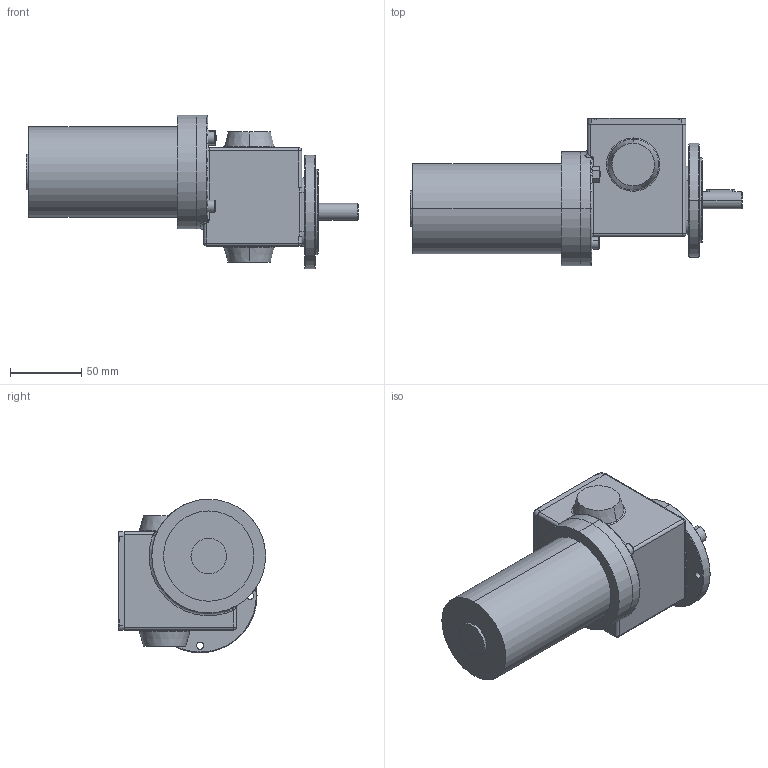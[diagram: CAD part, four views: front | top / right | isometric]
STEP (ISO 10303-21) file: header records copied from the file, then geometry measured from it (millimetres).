
FILE_DESCRIPTION (( 'STEP AP214' ), '1' );
FILE_NAME ('GP-SN4F_57W_3000Upm.STEP', '2021-12-08T15:03:24', ( '' ), ( '' ), 'SwSTEP 2.0', 'SolidWorks 2019', '' );
FILE_SCHEMA (( 'AUTOMOTIVE_DESIGN' ));
Length unit declared in the file: millimetre
Products named in the file (16): K_26x6,5; GP-SN4F_57W_3000Upm; 05-M-062 I 57W_3000Upm; socket head cap screw_din_DIN 912 M5 x 16 --- 16C; slotted countersunk flat head screw_din_DIN EN ISO 2009 - M5 x 12 - 12C; NBR_WDR_12x37x10; slotted pan head screw_din_DIN EN ISO 1580 - M5 x 12 - 12C; socket set screw flat point_din_DIN 913 - M5 x 25-C; hex bolt gradeab_din_DIN EN 24014 - M5 x 25 x 25-C; SN4F_3D_Export; PF_A4x4x20; 04F-G-005_3D_Export; hex nut style 1 gradeab_din_Hexagon Nut ISO 4032 - M6 - D - C; 04F-F-002; 04F-W-002_3D_Export; 04B-D-003
Assembly tree (22 placements, depth 3):
  GP-SN4F_57W_3000Upm
    SN4F_3D_Export
      04F-G-005_3D_Export
      04F-W-002_3D_Export
      04F-F-002
      04B-D-003
      K_26x6,5
      NBR_WDR_12x37x10
      PF_A4x4x20
      slotted countersunk flat head screw_din_DIN EN ISO 2009 - M5 x 12 - 12C  x4
      socket head cap screw_din_DIN 912 M5 x 16 --- 16C  x2
      hex bolt gradeab_din_DIN EN 24014 - M5 x 25 x 25-C
      socket set screw flat point_din_DIN 913 - M5 x 25-C
      hex nut style 1 gradeab_din_Hexagon Nut ISO 4032 - M6 - D - C
      slotted pan head screw_din_DIN EN ISO 1580 - M5 x 12 - 12C  x4
    05-M-062 I 57W_3000Upm
Bounding box: 233.5 x 103.5 x 108 mm (x, y, z)
Volume: 885853.6 mm3; surface area: 118846.6 mm2
Topology: 21 solids, 22 shells, 556 faces, 1241 edges, 732 vertices
Faces by surface type: cylinder 192, plane 179, cone 138, torus 36, bspline 8, sphere 3
Entity records: 13879 total; most frequent: CARTESIAN_POINT 2745, DIRECTION 2317, ORIENTED_EDGE 1928, EDGE_CURVE 964, AXIS2_PLACEMENT_3D 953, VERTEX_POINT 585, EDGE_LOOP 525, CIRCLE 487
